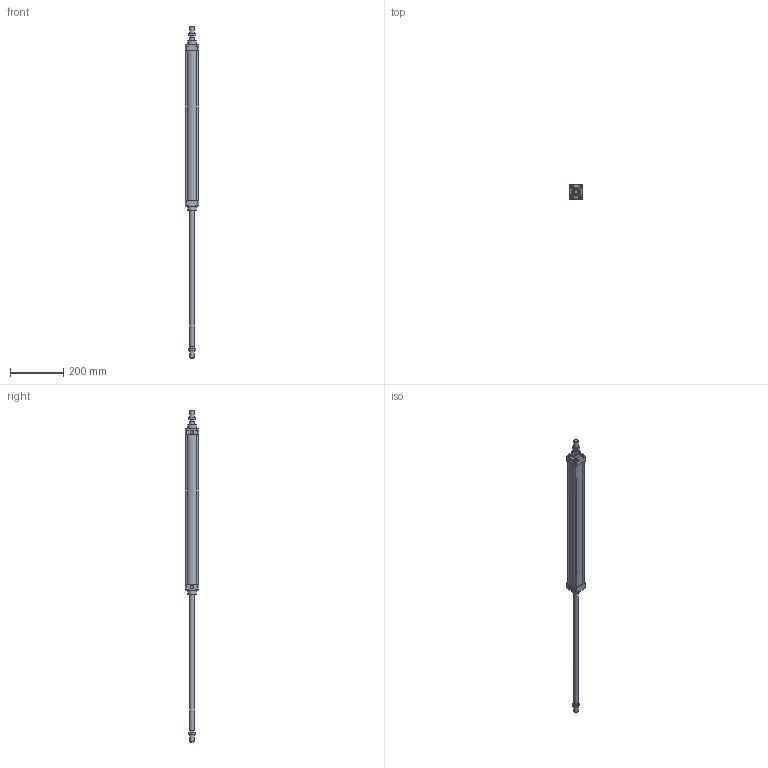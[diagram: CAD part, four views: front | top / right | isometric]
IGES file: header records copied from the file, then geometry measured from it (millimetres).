
Global section: file name: 1303_040_0500_02A; native system: Autodesk Inventor 2014; preprocessor: unknown; author: A. Manieri; date: 20161123.144312; units: millimetre
Bounding box: 52 x 52 x 1250 mm (x, y, z)
Volume: 749783.9 mm3; surface area: 306573.6 mm2
Topology: 10 solids, 10 shells, 189 faces, 471 edges, 314 vertices
Faces by surface type: bspline 189
